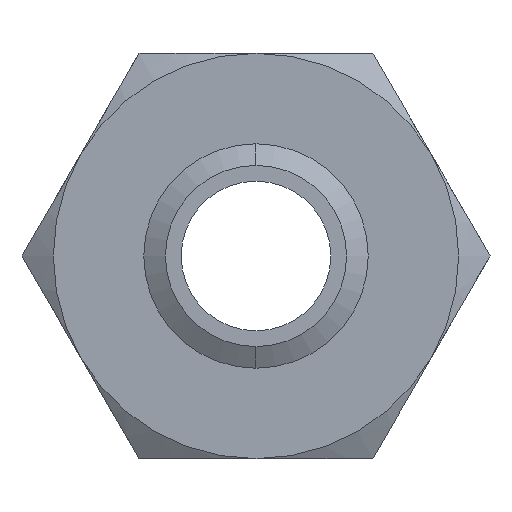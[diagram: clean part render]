
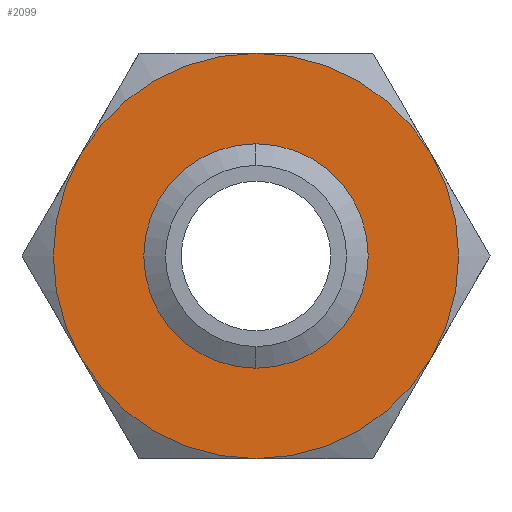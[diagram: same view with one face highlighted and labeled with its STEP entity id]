
A CAD part, front view. The second image highlights one B-rep face of the part: STEP entity #2099.
In plain terms, the highlighted planar face has unit normal (0, -1, 0).
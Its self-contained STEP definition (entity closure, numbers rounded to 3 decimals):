
#68 = EDGE_CURVE ( 'NONE', #75, #2123, #563, .T. ) ;
#69 = EDGE_CURVE ( 'NONE', #2064, #75, #557, .T. ) ;
#70 = ORIENTED_EDGE ( 'NONE', *, *, #69, .F. ) ;
#72 = EDGE_LOOP ( 'NONE', ( #79, #80 ) ) ;
#74 = ORIENTED_EDGE ( 'NONE', *, *, #68, .F. ) ;
#75 = VERTEX_POINT ( 'NONE', #612 ) ;
#79 = ORIENTED_EDGE ( 'NONE', *, *, #318, .F. ) ;
#80 = ORIENTED_EDGE ( 'NONE', *, *, #92, .F. ) ;
#92 = EDGE_CURVE ( 'NONE', #240, #239, #595, .T. ) ;
#95 = ORIENTED_EDGE ( 'NONE', *, *, #2114, .F. ) ;
#239 = VERTEX_POINT ( 'NONE', #862 ) ;
#240 = VERTEX_POINT ( 'NONE', #858 ) ;
#318 = EDGE_CURVE ( 'NONE', #239, #240, #972, .T. ) ;
#553 = DIRECTION ( 'NONE',  ( 0., 0., 1. ) ) ;
#554 = DIRECTION ( 'NONE',  ( 0., 1., 0. ) ) ;
#555 = CARTESIAN_POINT ( 'NONE',  ( 0., 0., 0. ) ) ;
#556 = AXIS2_PLACEMENT_3D ( 'NONE', #555, #554, #553 ) ;
#557 = CIRCLE ( 'NONE', #556, 32.5 ) ;
#559 = DIRECTION ( 'NONE',  ( 0., 0., 1. ) ) ;
#560 = DIRECTION ( 'NONE',  ( 0., 1., 0. ) ) ;
#561 = CARTESIAN_POINT ( 'NONE',  ( 0., 0., 0. ) ) ;
#562 = AXIS2_PLACEMENT_3D ( 'NONE', #561, #560, #559 ) ;
#563 = CIRCLE ( 'NONE', #562, 32.5 ) ;
#588 = DIRECTION ( 'NONE',  ( 0., 0., -1. ) ) ;
#589 = DIRECTION ( 'NONE',  ( 0., -1., 0. ) ) ;
#590 = CARTESIAN_POINT ( 'NONE',  ( 0., 0., 0. ) ) ;
#591 = AXIS2_PLACEMENT_3D ( 'NONE', #590, #589, #588 ) ;
#595 = CIRCLE ( 'NONE', #591, 14.536 ) ;
#612 = CARTESIAN_POINT ( 'NONE',  ( 28.146, 0., -16.25 ) ) ;
#858 = CARTESIAN_POINT ( 'NONE',  ( 0., 0., 14.536 ) ) ;
#862 = CARTESIAN_POINT ( 'NONE',  ( 0., 0., -14.536 ) ) ;
#963 = DIRECTION ( 'NONE',  ( 0., 0., -1. ) ) ;
#964 = DIRECTION ( 'NONE',  ( 0., -1., 0. ) ) ;
#965 = CARTESIAN_POINT ( 'NONE',  ( 0., 0., 0. ) ) ;
#966 = AXIS2_PLACEMENT_3D ( 'NONE', #965, #964, #963 ) ;
#972 = CIRCLE ( 'NONE', #966, 14.536 ) ;
#1082 = CARTESIAN_POINT ( 'NONE',  ( -28.146, 0., -16.25 ) ) ;
#1118 = CARTESIAN_POINT ( 'NONE',  ( -28.146, 0., 16.25 ) ) ;
#1144 = CIRCLE ( 'NONE', #1202, 32.5 ) ;
#1199 = DIRECTION ( 'NONE',  ( 0., 0., 1. ) ) ;
#1200 = DIRECTION ( 'NONE',  ( 0., 1., 0. ) ) ;
#1201 = CARTESIAN_POINT ( 'NONE',  ( 0., 0., 0. ) ) ;
#1202 = AXIS2_PLACEMENT_3D ( 'NONE', #1201, #1200, #1199 ) ;
#1374 = DIRECTION ( 'NONE',  ( 0., 0., 1. ) ) ;
#1375 = DIRECTION ( 'NONE',  ( 0., 1., 0. ) ) ;
#1376 = CARTESIAN_POINT ( 'NONE',  ( 0., 0., 0. ) ) ;
#1377 = AXIS2_PLACEMENT_3D ( 'NONE', #1376, #1375, #1374 ) ;
#1378 = CIRCLE ( 'NONE', #1377, 32.5 ) ;
#1537 = CARTESIAN_POINT ( 'NONE',  ( 0., 0., 32.5 ) ) ;
#1540 = CARTESIAN_POINT ( 'NONE',  ( 28.146, 0., 16.25 ) ) ;
#1597 = DIRECTION ( 'NONE',  ( 0., 0., 1. ) ) ;
#1598 = DIRECTION ( 'NONE',  ( 0., 1., 0. ) ) ;
#1599 = CARTESIAN_POINT ( 'NONE',  ( 0., 0., 0. ) ) ;
#1600 = AXIS2_PLACEMENT_3D ( 'NONE', #1599, #1598, #1597 ) ;
#1601 = DIRECTION ( 'NONE',  ( 0., 0., 1. ) ) ;
#1602 = DIRECTION ( 'NONE',  ( 0., 1., 0. ) ) ;
#1603 = CIRCLE ( 'NONE', #1600, 32.5 ) ;
#1604 = CARTESIAN_POINT ( 'NONE',  ( 18.764, 0., -32.5 ) ) ;
#1605 = AXIS2_PLACEMENT_3D ( 'NONE', #1604, #1602, #1601 ) ;
#1606 = PLANE ( 'NONE',  #1605 ) ;
#1607 = FACE_BOUND ( 'NONE', #72, .T. ) ;
#1608 = FACE_OUTER_BOUND ( 'NONE', #2098, .T. ) ;
#1673 = CARTESIAN_POINT ( 'NONE',  ( 0., 0., -32.5 ) ) ;
#1687 = DIRECTION ( 'NONE',  ( 0., 0., 1. ) ) ;
#1688 = DIRECTION ( 'NONE',  ( 0., 1., 0. ) ) ;
#1689 = CARTESIAN_POINT ( 'NONE',  ( 0., 0., 0. ) ) ;
#1690 = AXIS2_PLACEMENT_3D ( 'NONE', #1689, #1688, #1687 ) ;
#1691 = CIRCLE ( 'NONE', #1690, 32.5 ) ;
#1803 = VERTEX_POINT ( 'NONE', #1082 ) ;
#1846 = ORIENTED_EDGE ( 'NONE', *, *, #1983, .F. ) ;
#1849 = VERTEX_POINT ( 'NONE', #1118 ) ;
#1872 = EDGE_CURVE ( 'NONE', #1849, #2069, #1144, .T. ) ;
#1874 = ORIENTED_EDGE ( 'NONE', *, *, #1872, .F. ) ;
#1983 = EDGE_CURVE ( 'NONE', #1803, #1849, #1378, .T. ) ;
#2064 = VERTEX_POINT ( 'NONE', #1540 ) ;
#2069 = VERTEX_POINT ( 'NONE', #1537 ) ;
#2098 = EDGE_LOOP ( 'NONE', ( #2100, #1874, #1846, #95, #74, #70 ) ) ;
#2099 = ADVANCED_FACE ( 'NONE', ( #1608, #1607 ), #1606, .F. ) ;
#2100 = ORIENTED_EDGE ( 'NONE', *, *, #2101, .F. ) ;
#2101 = EDGE_CURVE ( 'NONE', #2069, #2064, #1603, .T. ) ;
#2114 = EDGE_CURVE ( 'NONE', #2123, #1803, #1691, .T. ) ;
#2123 = VERTEX_POINT ( 'NONE', #1673 ) ;
